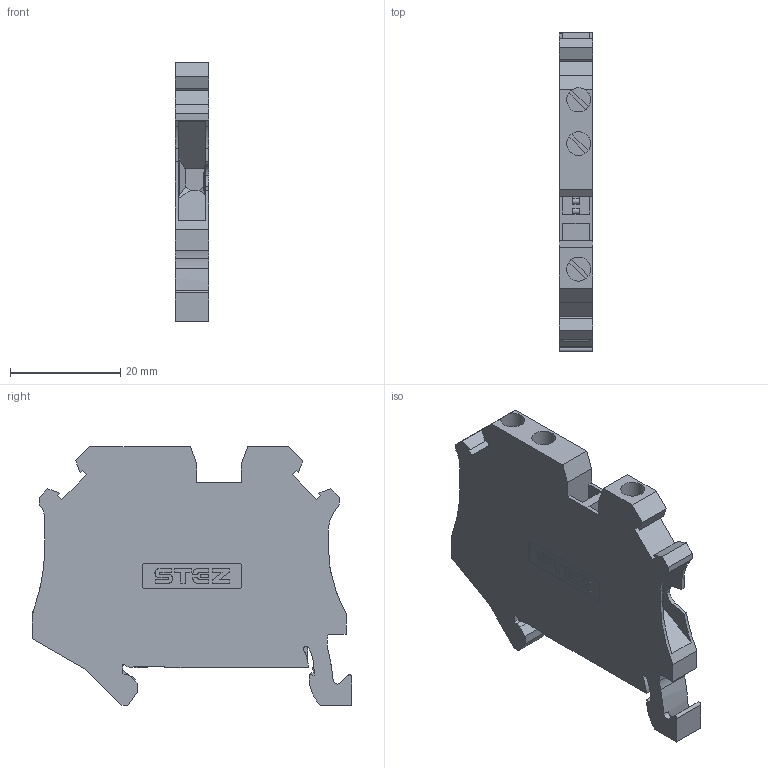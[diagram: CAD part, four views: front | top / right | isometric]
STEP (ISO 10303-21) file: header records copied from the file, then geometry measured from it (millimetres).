
FILE_DESCRIPTION(('TFLEX Exchange Step'),'2;1');
FILE_NAME('11000072_КНВ_4-3-PE.stp', '2024-04-27T11:38:03+03:00',('apanin'),('Unknown organisation'),'TFLEX Exchange 2023.2','T-FLEX CAD','Unknown authorisation');
FILE_SCHEMA( ('AUTOMOTIVE_DESIGN { 1 0 10303 214 1 1 1 1 }') );
Length unit declared in the file: millimetre
Products named in the file (1): Тело_1 - UT_4_TWIN_PE-SELECT:1
Bounding box: 6.15 x 57.8 x 46.85 mm (x, y, z)
Volume: 10301.9 mm3; surface area: 7034.2 mm2
Topology: 1 solids, 1 shells, 446 faces, 1292 edges, 857 vertices
Faces by surface type: plane 243, cylinder 203
Full cylindrical faces by diameter (mm): 4.35 x3
Entity records: 15059 total; most frequent: CARTESIAN_POINT 2615, DIRECTION 2608, ORIENTED_EDGE 2584, EDGE_CURVE 1292, AXIS2_PLACEMENT_3D 877, VERTEX_POINT 857, VECTOR 854, LINE 854
